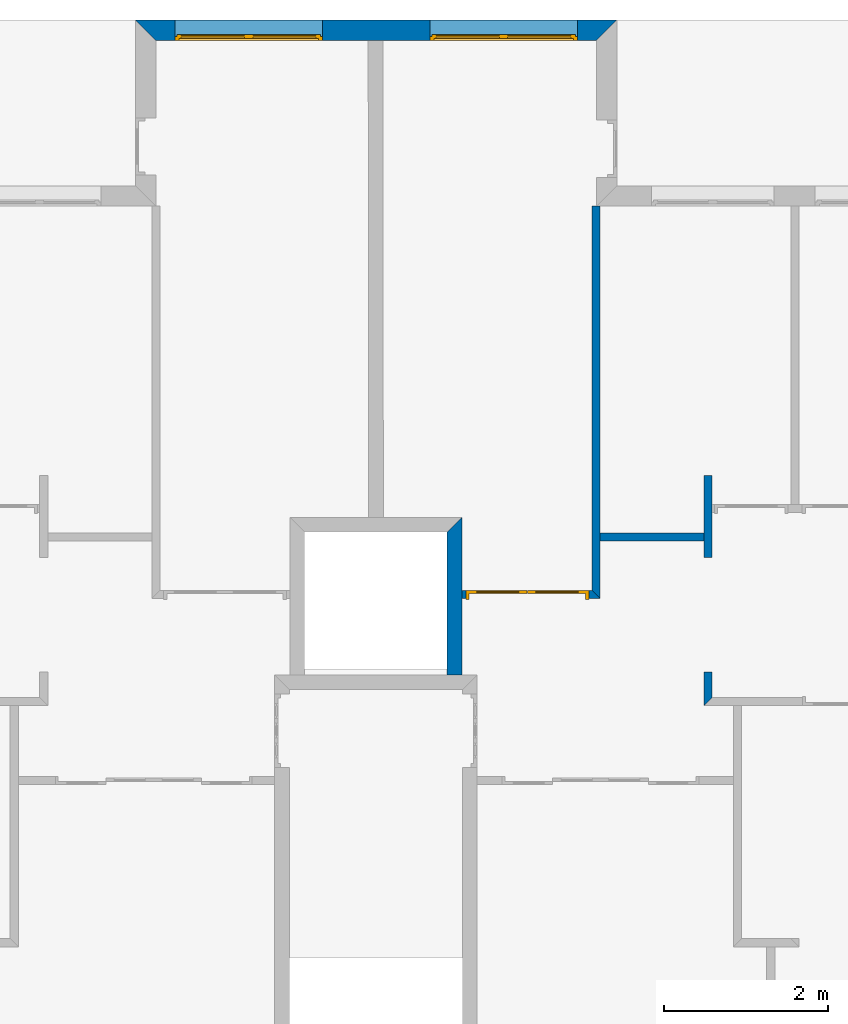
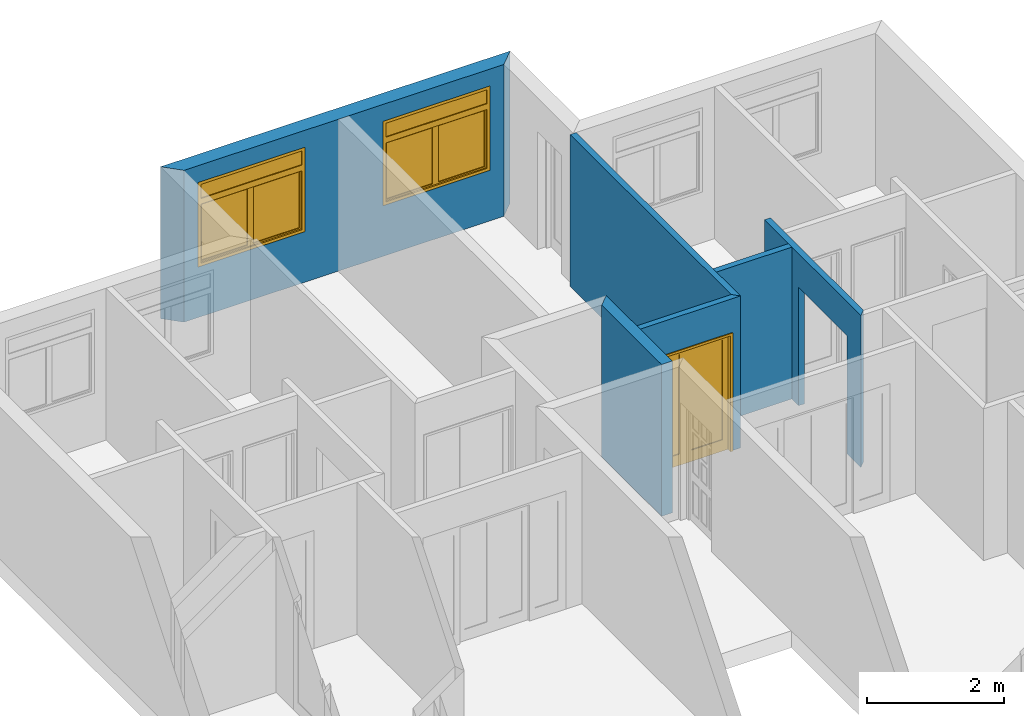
# One storey, part 11 of 13: 6 walls, 2 windows, 1 door, 4 openings.
"""IFC2X3 building model written with IfcOpenShell, lengths in metres."""

from ifc_helpers import new_model, entity, si_unit, converted_unit, direction, frame, frame_2d, origin_with_axes, place, context, project, spatial, polyline, rectangle, outline, extrude, faceted_brep, source, transform, mapped, material, layer, layer_set, layer_usage, type_object, element, fill, save


model = new_model("IFC2X3")

# Units and contexts
context_of_model = context(None, 3, precision=1e-05, world=origin_with_axes(), true_north=direction((6.123234e-17, 1.0)))
plan_context = context("Plan", 3, precision=1e-05, world=origin_with_axes(), true_north=direction((6.123234e-17, 1.0)))
model_context = context("Model", 3, precision=1e-05, world=origin_with_axes(), true_north=direction((6.123234e-17, 1.0)))
ifc_project = project(units=[si_unit("LENGTHUNIT", "METRE"), si_unit("AREAUNIT", "SQUARE_METRE"), si_unit("VOLUMEUNIT", "CUBIC_METRE"), converted_unit("PLANEANGLEUNIT", "DEGREE", entity("IfcPlaneAngleMeasure", 0.017453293), si_unit("PLANEANGLEUNIT", "RADIAN"), dimensions=[0, 0, 0, 0, 0, 0, 0]), si_unit("SOLIDANGLEUNIT", "STERADIAN"), si_unit("MASSUNIT", "GRAM"), si_unit("TIMEUNIT", "SECOND"), si_unit("THERMODYNAMICTEMPERATUREUNIT", "DEGREE_CELSIUS"), si_unit("LUMINOUSINTENSITYUNIT", "LUMEN")], contexts=[context_of_model, plan_context, model_context])

# Site, building, storey
site_placement = place(None, origin_with_axes())
site = spatial("IfcSite", under=ifc_project, at=site_placement, Name="Por defecto Sitio", CompositionType="ELEMENT")
building_placement = place(site_placement, origin_with_axes())
building = spatial("IfcBuilding", under=site, at=building_placement, Name="Por defecto Edificio", CompositionType="ELEMENT")
storey_placement = place(building_placement, frame((0.0, 0.0, 7.2), z_axis=(0.0, 0.0, 1.0), x_axis=(1.0, 0.0, 0.0)))
storey = spatial("IfcBuildingStorey", under=building, at=storey_placement, Name="Segunda", CompositionType="ELEMENT", Elevation=7.2)

# Wall, openings, windows
ifc_material = material(Name="Ladrillo común")
ifc_layer_1 = layer(ifc_material, 0.25, ventilated="UNKNOWN")
ifc_layer_set_1 = layer_set([ifc_layer_1], Name="Ladrillo común")
ifc_layer_usage_1 = layer_usage(ifc_layer_set_1, "AXIS2", "NEGATIVE", 0.0)
wall_type_1 = type_object("IfcWallType", Name="Ladrillo común", PredefinedType="NOTDEFINED")
wall_1_placement = place(storey_placement, frame((5.0781164, 15.472599, 0.0), z_axis=(0.0, 0.0, 1.0), x_axis=(1.0, 0.0, 0.0)))
wall_1 = element("IfcWallStandardCase", 1, at=wall_1_placement, inside=storey, type_object=wall_type_1, material=ifc_layer_usage_1, Name="Muro-014", context=context_of_model, shape_type="SweptSolid", body=[
    extrude(outline(polyline([(0.25, -0.25), (5.627937, -0.25), (5.877937, 0.0), (0.0, 0.0), (0.25, -0.25)])), origin_with_axes(), (0.0, 0.0, 1.0), 2.7),
])
opening_1_placement = place(wall_1_placement, frame((4.4950854, -0.25, 0.9), z_axis=(0.0, 0.0, 1.0), x_axis=(1.0, 0.0, 0.0)))
opening_1 = element("IfcOpeningElement", 2, at=opening_1_placement, cuts=wall_1, ObjectType="Opening", context=model_context, shape_type="SweptSolid", body=[
    extrude(rectangle(XDim=1.8, YDim=1.5, at=frame_2d((0.0, 0.75), x_axis=(-1.0, 0.0))), frame((0.0, 0.0, 0.0), z_axis=(0.0, 1.0, 0.0), x_axis=(-1.0, 0.0, 0.0)), (0.0, 0.0, 1.0), 0.25),
])
opening_2_placement = place(wall_1_placement, frame((1.3828517, -0.25, 0.9), z_axis=(0.0, 0.0, 1.0), x_axis=(1.0, 0.0, 0.0)))
opening_2 = element("IfcOpeningElement", 3, at=opening_2_placement, cuts=wall_1, ObjectType="Opening", context=model_context, shape_type="SweptSolid", body=[
    extrude(rectangle(XDim=1.8, YDim=1.5, at=frame_2d((4.4408921e-16, 0.75), x_axis=(1.0, 0.0))), frame((0.0, 0.0, 0.0), z_axis=(0.0, 1.0, 0.0), x_axis=(-1.0, 0.0, 0.0)), (0.0, 0.0, 1.0), 0.25),
])
window_style_1 = type_object("IfcWindowStyle", Name="V M Doble 12", ConstructionType="NOTDEFINED", OperationType="DOUBLE_PANEL_HORIZONTAL", ParameterTakesPrecedence=False, Sizeable=False)
shared_shape_1 = source(origin_with_axes(), model_context, "Body", "Brep", [
    faceted_brep([(0.025, 0.05, 0.05), (0.0, 0.05, 0.05), (0.0, 0.05, 1.45), (0.05, 0.05, 1.45), (0.05, 0.05, 1.2), (0.05, 0.05, 1.125), (0.025, 0.05, 1.125), (0.025, 0.025, 0.05), (0.05, 0.025, 0.05), (0.05, 0.0, 0.05), (0.0, 0.0, 0.05), (0.0, 0.0, 1.45), (0.05, 0.0, 1.45), (0.05, 0.0, 1.2), (0.05, 0.025, 1.125), (0.05, 0.0, 1.1), (0.05, 0.025, 1.1), (0.025, 0.025, 1.125)], [[[0, 1, 2, 3, 4, 5, 6]], [[7, 8, 9, 10, 1, 0]], [[2, 1, 10, 11]], [[3, 2, 11, 12]], [[4, 3, 12, 13]], [[14, 5, 4, 13, 15, 16]], [[14, 17, 6, 5]], [[6, 17, 7, 0]], [[16, 8, 7, 17, 14]], [[16, 15, 9, 8]], [[13, 12, 11, 10, 9, 15]]]),
    faceted_brep([(1.775, 0.05, 1.125), (1.75, 0.05, 1.125), (1.75, 0.05, 1.2), (1.75, 0.05, 1.45), (1.8, 0.05, 1.45), (1.8, 0.05, 0.05), (1.775, 0.05, 0.05), (1.775, 0.025, 1.125), (1.75, 0.025, 1.125), (1.75, 0.025, 1.1), (1.75, 0.0, 1.1), (1.75, 0.0, 1.2), (1.75, 0.0, 1.45), (1.8, 0.0, 1.45), (1.8, 0.0, 0.05), (1.775, 0.025, 0.05), (1.75, 0.0, 0.05), (1.75, 0.025, 0.05)], [[[0, 1, 2, 3, 4, 5, 6]], [[0, 7, 8, 1]], [[8, 9, 10, 11, 2, 1]], [[3, 2, 11, 12]], [[4, 3, 12, 13]], [[5, 4, 13, 14]], [[15, 6, 5, 14, 16, 17]], [[6, 15, 7, 0]], [[17, 9, 8, 7, 15]], [[17, 16, 10, 9]], [[14, 13, 12, 11, 10, 16]]]),
    faceted_brep([(0.05, 0.05, 1.125), (0.05, 0.05, 1.2), (1.75, 0.05, 1.2), (1.75, 0.05, 1.125), (0.9, 0.05, 1.125), (0.05, 0.025, 1.125), (0.05, 0.025, 1.1), (0.05, 0.0, 1.1), (0.05, 0.0, 1.2), (1.75, 0.0, 1.2), (1.75, 0.025, 1.125), (1.75, 0.0, 1.1), (1.75, 0.025, 1.1), (0.9, 0.025, 1.125)], [[[0, 1, 2, 3, 4]], [[5, 6, 7, 8, 1, 0]], [[2, 1, 8, 9]], [[10, 3, 2, 9, 11, 12]], [[10, 13, 4, 3]], [[4, 13, 5, 0]], [[12, 6, 5, 13, 10]], [[12, 11, 7, 6]], [[9, 8, 7, 11]]]),
    faceted_brep([(1.75, 0.025, 0.05), (1.75, 0.0, 0.05), (1.8, 0.0, 0.05), (1.8, 0.05, 0.05), (1.775, 0.05, 0.05), (1.775, 0.025, 0.05), (0.05, 0.025, 0.05), (0.05, 0.0, 0.05), (0.0, 0.0, 0.05), (0.0, 0.0, 0.0), (1.8, 0.0, 0.0), (1.8, 0.05, 0.0), (0.025, 0.05, 0.025), (0.9, 0.05, 0.025), (1.775, 0.05, 0.025), (0.0, 0.05, 0.0), (0.0, 0.05, 0.05), (0.025, 0.05, 0.05), (1.775, 0.025, 0.025), (0.9, 0.025, 0.025), (0.025, 0.025, 0.025), (0.025, 0.025, 0.05)], [[[0, 1, 2, 3, 4, 5]], [[6, 7, 1, 0]], [[8, 9, 10, 2, 1, 7]], [[11, 3, 2, 10]], [[12, 13, 14, 4, 3, 11, 15, 16, 17]], [[14, 18, 5, 4]], [[5, 18, 19, 20, 21, 6, 0]], [[21, 17, 16, 8, 7, 6]], [[16, 15, 9, 8]], [[15, 11, 10, 9]], [[12, 20, 19, 13]], [[13, 19, 18, 14]], [[21, 20, 12, 17]]]),
    faceted_brep([(1.75, 0.0, 1.45), (1.75, 0.05, 1.45), (1.8, 0.05, 1.45), (1.8, 0.0, 1.45), (0.05, 0.0, 1.45), (0.05, 0.05, 1.45), (0.0, 0.05, 1.45), (0.0, 0.05, 1.5), (1.8, 0.05, 1.5), (1.8, 0.0, 1.5), (0.0, 0.0, 1.5), (0.0, 0.0, 1.45)], [[[0, 1, 2, 3]], [[4, 5, 1, 0]], [[1, 5, 6, 7, 8, 2]], [[3, 2, 8, 9]], [[0, 3, 9, 10, 11, 4]], [[11, 6, 5, 4]], [[10, 7, 6, 11]], [[9, 8, 7, 10]]]),
    faceted_brep([(1.725, 0.025, 0.075), (1.725, 0.025, 1.075), (1.725, 0.075, 1.075), (1.725, 0.075, 0.075), (1.775, 0.025, 0.075), (1.775, 0.025, 1.075), (1.775, 0.075, 1.075), (1.775, 0.075, 0.075)], [[[0, 1, 2, 3]], [[0, 4, 5, 1]], [[1, 5, 6, 2]], [[3, 2, 6, 7]], [[4, 0, 3, 7]], [[5, 4, 7, 6]]]),
    faceted_brep([(0.9, 0.025, 0.075), (0.9, 0.025, 1.075), (0.9, 0.075, 1.075), (0.9, 0.075, 0.075), (0.95, 0.025, 0.075), (0.95, 0.025, 1.075), (0.95, 0.075, 1.075), (0.95, 0.075, 0.075)], [[[0, 1, 2, 3]], [[0, 4, 5, 1]], [[1, 5, 6, 2]], [[3, 2, 6, 7]], [[4, 0, 3, 7]], [[5, 4, 7, 6]]]),
    faceted_brep([(0.9, 0.025, 0.025), (0.9, 0.025, 0.075), (0.9, 0.075, 0.075), (0.9, 0.075, 0.025), (1.775, 0.025, 0.025), (1.775, 0.025, 0.075), (1.725, 0.025, 0.075), (0.95, 0.025, 0.075), (0.95, 0.075, 0.075), (1.725, 0.075, 0.075), (1.775, 0.075, 0.075), (1.775, 0.075, 0.025)], [[[0, 1, 2, 3]], [[0, 4, 5, 6, 7, 1]], [[1, 7, 8, 2]], [[3, 2, 8, 9, 10, 11]], [[4, 0, 3, 11]], [[5, 4, 11, 10]], [[6, 5, 10, 9]], [[7, 6, 9, 8]]]),
    faceted_brep([(1.775, 0.025, 1.125), (1.775, 0.025, 1.075), (1.775, 0.075, 1.075), (1.775, 0.075, 1.125), (0.9, 0.025, 1.125), (0.9, 0.025, 1.075), (0.95, 0.025, 1.075), (1.725, 0.025, 1.075), (1.725, 0.075, 1.075), (0.95, 0.075, 1.075), (0.9, 0.075, 1.075), (0.9, 0.075, 1.125)], [[[0, 1, 2, 3]], [[0, 4, 5, 6, 7, 1]], [[1, 7, 8, 2]], [[3, 2, 8, 9, 10, 11]], [[4, 0, 3, 11]], [[5, 4, 11, 10]], [[6, 5, 10, 9]], [[7, 6, 9, 8]]]),
    faceted_brep([(1.725, 0.04, 0.075), (0.95, 0.04, 0.075), (0.95, 0.06, 0.075), (1.725, 0.06, 0.075), (1.725, 0.04, 1.075), (0.95, 0.04, 1.075), (0.95, 0.06, 1.075), (1.725, 0.06, 1.075)], [[[0, 1, 2, 3]], [[0, 4, 5, 1]], [[1, 5, 6, 2]], [[3, 2, 6, 7]], [[4, 0, 3, 7]], [[5, 4, 7, 6]]]),
    faceted_brep([(0.85, 0.025, 0.075), (0.85, 0.025, 1.075), (0.85, 0.075, 1.075), (0.85, 0.075, 0.075), (0.9, 0.025, 0.075), (0.9, 0.025, 1.075), (0.9, 0.075, 1.075), (0.9, 0.075, 0.075)], [[[0, 1, 2, 3]], [[0, 4, 5, 1]], [[1, 5, 6, 2]], [[3, 2, 6, 7]], [[4, 0, 3, 7]], [[5, 4, 7, 6]]]),
    faceted_brep([(0.025, 0.025, 0.075), (0.025, 0.025, 1.075), (0.025, 0.075, 1.075), (0.025, 0.075, 0.075), (0.075, 0.025, 0.075), (0.075, 0.025, 1.075), (0.075, 0.075, 1.075), (0.075, 0.075, 0.075)], [[[0, 1, 2, 3]], [[0, 4, 5, 1]], [[1, 5, 6, 2]], [[3, 2, 6, 7]], [[4, 0, 3, 7]], [[5, 4, 7, 6]]]),
    faceted_brep([(0.025, 0.025, 0.025), (0.025, 0.025, 0.075), (0.025, 0.075, 0.075), (0.025, 0.075, 0.025), (0.9, 0.025, 0.025), (0.9, 0.025, 0.075), (0.85, 0.025, 0.075), (0.075, 0.025, 0.075), (0.075, 0.075, 0.075), (0.85, 0.075, 0.075), (0.9, 0.075, 0.075), (0.9, 0.075, 0.025)], [[[0, 1, 2, 3]], [[0, 4, 5, 6, 7, 1]], [[1, 7, 8, 2]], [[3, 2, 8, 9, 10, 11]], [[4, 0, 3, 11]], [[5, 4, 11, 10]], [[6, 5, 10, 9]], [[7, 6, 9, 8]]]),
    faceted_brep([(0.9, 0.025, 1.125), (0.9, 0.025, 1.075), (0.9, 0.075, 1.075), (0.9, 0.075, 1.125), (0.025, 0.025, 1.125), (0.025, 0.025, 1.075), (0.075, 0.025, 1.075), (0.85, 0.025, 1.075), (0.85, 0.075, 1.075), (0.075, 0.075, 1.075), (0.025, 0.075, 1.075), (0.025, 0.075, 1.125)], [[[0, 1, 2, 3]], [[0, 4, 5, 6, 7, 1]], [[1, 7, 8, 2]], [[3, 2, 8, 9, 10, 11]], [[4, 0, 3, 11]], [[5, 4, 11, 10]], [[6, 5, 10, 9]], [[7, 6, 9, 8]]]),
    faceted_brep([(0.85, 0.04, 0.075), (0.075, 0.04, 0.075), (0.075, 0.06, 0.075), (0.85, 0.06, 0.075), (0.85, 0.04, 1.075), (0.075, 0.04, 1.075), (0.075, 0.06, 1.075), (0.85, 0.06, 1.075)], [[[0, 1, 2, 3]], [[0, 4, 5, 1]], [[1, 5, 6, 2]], [[3, 2, 6, 7]], [[4, 0, 3, 7]], [[5, 4, 7, 6]]]),
    faceted_brep([(1.75, 0.015, 1.2), (0.05, 0.015, 1.2), (0.05, 0.035, 1.2), (1.75, 0.035, 1.2), (1.75, 0.015, 1.45), (0.05, 0.015, 1.45), (0.05, 0.035, 1.45), (1.75, 0.035, 1.45)], [[[0, 1, 2, 3]], [[0, 4, 5, 1]], [[1, 5, 6, 2]], [[3, 2, 6, 7]], [[4, 0, 3, 7]], [[5, 4, 7, 6]]]),
])
window_1_placement = place(opening_2_placement, frame((-0.9, 0.0, 0.0), z_axis=(0.0, 0.0, 1.0), x_axis=(1.0, 0.0, 0.0)))
window_1 = element("IfcWindow", 4, at=window_1_placement, inside=storey, type_object=window_style_1, Name="V06", OverallHeight=1.5, OverallWidth=1.8, context=model_context, shape_type="MappedRepresentation", body=[
    mapped(shared_shape_1, transform((0.0, 0.0, 0.0), scale=1.0)),
])
fill(opening_2, window_1)
window_style_2 = type_object("IfcWindowStyle", Name="V M Doble 12", ConstructionType="NOTDEFINED", OperationType="DOUBLE_PANEL_HORIZONTAL", ParameterTakesPrecedence=False, Sizeable=False)
shared_shape_2 = source(origin_with_axes(), model_context, "Body", "Brep", [
    faceted_brep([(1.775, 0.05, 0.05), (1.775, 0.05, 1.125), (1.75, 0.05, 1.125), (1.75, 0.05, 1.2), (1.75, 0.05, 1.45), (1.8, 0.05, 1.45), (1.8, 0.05, 0.05), (1.775, 0.025, 0.05), (1.775, 0.025, 1.125), (1.75, 0.025, 1.125), (1.75, 0.025, 1.1), (1.75, 0.0, 1.1), (1.75, 0.0, 1.2), (1.75, 0.0, 1.45), (1.8, 0.0, 1.45), (1.8, 0.0, 0.05), (1.75, 0.0, 0.05), (1.75, 0.025, 0.05)], [[[0, 1, 2, 3, 4, 5, 6]], [[1, 0, 7, 8]], [[9, 2, 1, 8]], [[9, 10, 11, 12, 3, 2]], [[3, 12, 13, 4]], [[4, 13, 14, 5]], [[5, 14, 15, 6]], [[7, 0, 6, 15, 16, 17]], [[10, 9, 8, 7, 17]], [[10, 17, 16, 11]], [[12, 11, 16, 15, 14, 13]]]),
    faceted_brep([(0.025, 0.05, 1.125), (0.025, 0.05, 0.05), (0.0, 0.05, 0.05), (0.0, 0.05, 1.45), (0.05, 0.05, 1.45), (0.05, 0.05, 1.2), (0.05, 0.05, 1.125), (0.025, 0.025, 1.125), (0.025, 0.025, 0.05), (0.05, 0.025, 0.05), (0.05, 0.0, 0.05), (0.0, 0.0, 0.05), (0.0, 0.0, 1.45), (0.05, 0.0, 1.45), (0.05, 0.0, 1.2), (0.05, 0.025, 1.125), (0.05, 0.0, 1.1), (0.05, 0.025, 1.1)], [[[0, 1, 2, 3, 4, 5, 6]], [[1, 0, 7, 8]], [[8, 9, 10, 11, 2, 1]], [[2, 11, 12, 3]], [[3, 12, 13, 4]], [[4, 13, 14, 5]], [[15, 6, 5, 14, 16, 17]], [[0, 6, 15, 7]], [[9, 8, 7, 15, 17]], [[9, 17, 16, 10]], [[11, 10, 16, 14, 13, 12]]]),
    faceted_brep([(1.75, 0.05, 1.125), (0.9, 0.05, 1.125), (0.05, 0.05, 1.125), (0.05, 0.05, 1.2), (1.75, 0.05, 1.2), (1.75, 0.025, 1.125), (0.9, 0.025, 1.125), (0.05, 0.025, 1.125), (0.05, 0.025, 1.1), (0.05, 0.0, 1.1), (0.05, 0.0, 1.2), (1.75, 0.0, 1.2), (1.75, 0.0, 1.1), (1.75, 0.025, 1.1)], [[[0, 1, 2, 3, 4]], [[1, 0, 5, 6]], [[7, 2, 1, 6]], [[7, 8, 9, 10, 3, 2]], [[3, 10, 11, 4]], [[5, 0, 4, 11, 12, 13]], [[8, 7, 6, 5, 13]], [[8, 13, 12, 9]], [[10, 9, 12, 11]]]),
    faceted_brep([(0.05, 0.025, 0.05), (0.025, 0.025, 0.05), (0.025, 0.05, 0.05), (0.0, 0.05, 0.05), (0.0, 0.0, 0.05), (0.05, 0.0, 0.05), (1.75, 0.025, 0.05), (1.775, 0.025, 0.05), (1.775, 0.025, 0.025), (0.9, 0.025, 0.025), (0.025, 0.025, 0.025), (0.025, 0.05, 0.025), (1.775, 0.05, 0.025), (1.775, 0.05, 0.05), (1.8, 0.05, 0.05), (1.8, 0.05, 0.0), (0.0, 0.05, 0.0), (0.9, 0.05, 0.025), (0.0, 0.0, 0.0), (1.8, 0.0, 0.05), (1.75, 0.0, 0.05), (1.8, 0.0, 0.0)], [[[0, 1, 2, 3, 4, 5]], [[1, 0, 6, 7, 8, 9, 10]], [[11, 2, 1, 10]], [[12, 13, 14, 15, 16, 3, 2, 11, 17]], [[16, 18, 4, 3]], [[19, 20, 5, 4, 18, 21]], [[6, 0, 5, 20]], [[7, 6, 20, 19, 14, 13]], [[7, 13, 12, 8]], [[12, 17, 9, 8]], [[17, 11, 10, 9]], [[14, 19, 21, 15]], [[15, 21, 18, 16]]]),
    faceted_brep([(0.05, 0.0, 1.45), (0.0, 0.0, 1.45), (0.0, 0.05, 1.45), (0.05, 0.05, 1.45), (1.75, 0.0, 1.45), (1.8, 0.0, 1.45), (1.8, 0.0, 1.5), (0.0, 0.0, 1.5), (0.0, 0.05, 1.5), (1.8, 0.05, 1.5), (1.8, 0.05, 1.45), (1.75, 0.05, 1.45)], [[[0, 1, 2, 3]], [[0, 4, 5, 6, 7, 1]], [[1, 7, 8, 2]], [[3, 2, 8, 9, 10, 11]], [[4, 0, 3, 11]], [[5, 4, 11, 10]], [[6, 5, 10, 9]], [[7, 6, 9, 8]]]),
    faceted_brep([(0.075, 0.025, 0.075), (0.075, 0.075, 0.075), (0.075, 0.075, 1.075), (0.075, 0.025, 1.075), (0.025, 0.025, 0.075), (0.025, 0.075, 0.075), (0.025, 0.075, 1.075), (0.025, 0.025, 1.075)], [[[0, 1, 2, 3]], [[4, 5, 1, 0]], [[1, 5, 6, 2]], [[3, 2, 6, 7]], [[0, 3, 7, 4]], [[7, 6, 5, 4]]]),
    faceted_brep([(0.9, 0.025, 0.075), (0.9, 0.075, 0.075), (0.9, 0.075, 1.075), (0.9, 0.025, 1.075), (0.85, 0.025, 0.075), (0.85, 0.075, 0.075), (0.85, 0.075, 1.075), (0.85, 0.025, 1.075)], [[[0, 1, 2, 3]], [[4, 5, 1, 0]], [[1, 5, 6, 2]], [[3, 2, 6, 7]], [[0, 3, 7, 4]], [[7, 6, 5, 4]]]),
    faceted_brep([(0.9, 0.025, 0.025), (0.9, 0.075, 0.025), (0.9, 0.075, 0.075), (0.9, 0.025, 0.075), (0.025, 0.025, 0.025), (0.025, 0.075, 0.025), (0.025, 0.075, 0.075), (0.075, 0.075, 0.075), (0.85, 0.075, 0.075), (0.85, 0.025, 0.075), (0.075, 0.025, 0.075), (0.025, 0.025, 0.075)], [[[0, 1, 2, 3]], [[4, 5, 1, 0]], [[1, 5, 6, 7, 8, 2]], [[3, 2, 8, 9]], [[0, 3, 9, 10, 11, 4]], [[11, 6, 5, 4]], [[10, 7, 6, 11]], [[9, 8, 7, 10]]]),
    faceted_brep([(0.025, 0.025, 1.125), (0.025, 0.075, 1.125), (0.025, 0.075, 1.075), (0.025, 0.025, 1.075), (0.9, 0.025, 1.125), (0.9, 0.075, 1.125), (0.9, 0.075, 1.075), (0.85, 0.075, 1.075), (0.075, 0.075, 1.075), (0.075, 0.025, 1.075), (0.85, 0.025, 1.075), (0.9, 0.025, 1.075)], [[[0, 1, 2, 3]], [[4, 5, 1, 0]], [[1, 5, 6, 7, 8, 2]], [[3, 2, 8, 9]], [[0, 3, 9, 10, 11, 4]], [[11, 6, 5, 4]], [[10, 7, 6, 11]], [[9, 8, 7, 10]]]),
    faceted_brep([(0.075, 0.04, 0.075), (0.075, 0.06, 0.075), (0.85, 0.06, 0.075), (0.85, 0.04, 0.075), (0.075, 0.04, 1.075), (0.075, 0.06, 1.075), (0.85, 0.06, 1.075), (0.85, 0.04, 1.075)], [[[0, 1, 2, 3]], [[4, 5, 1, 0]], [[1, 5, 6, 2]], [[3, 2, 6, 7]], [[0, 3, 7, 4]], [[7, 6, 5, 4]]]),
    faceted_brep([(0.95, 0.025, 0.075), (0.95, 0.075, 0.075), (0.95, 0.075, 1.075), (0.95, 0.025, 1.075), (0.9, 0.025, 0.075), (0.9, 0.075, 0.075), (0.9, 0.075, 1.075), (0.9, 0.025, 1.075)], [[[0, 1, 2, 3]], [[4, 5, 1, 0]], [[1, 5, 6, 2]], [[3, 2, 6, 7]], [[0, 3, 7, 4]], [[7, 6, 5, 4]]]),
    faceted_brep([(1.775, 0.025, 0.075), (1.775, 0.075, 0.075), (1.775, 0.075, 1.075), (1.775, 0.025, 1.075), (1.725, 0.025, 0.075), (1.725, 0.075, 0.075), (1.725, 0.075, 1.075), (1.725, 0.025, 1.075)], [[[0, 1, 2, 3]], [[4, 5, 1, 0]], [[1, 5, 6, 2]], [[3, 2, 6, 7]], [[0, 3, 7, 4]], [[7, 6, 5, 4]]]),
    faceted_brep([(1.775, 0.025, 0.025), (1.775, 0.075, 0.025), (1.775, 0.075, 0.075), (1.775, 0.025, 0.075), (0.9, 0.025, 0.025), (0.9, 0.075, 0.025), (0.9, 0.075, 0.075), (0.95, 0.075, 0.075), (1.725, 0.075, 0.075), (1.725, 0.025, 0.075), (0.95, 0.025, 0.075), (0.9, 0.025, 0.075)], [[[0, 1, 2, 3]], [[4, 5, 1, 0]], [[1, 5, 6, 7, 8, 2]], [[3, 2, 8, 9]], [[0, 3, 9, 10, 11, 4]], [[11, 6, 5, 4]], [[10, 7, 6, 11]], [[9, 8, 7, 10]]]),
    faceted_brep([(0.9, 0.025, 1.125), (0.9, 0.075, 1.125), (0.9, 0.075, 1.075), (0.9, 0.025, 1.075), (1.775, 0.025, 1.125), (1.775, 0.075, 1.125), (1.775, 0.075, 1.075), (1.725, 0.075, 1.075), (0.95, 0.075, 1.075), (0.95, 0.025, 1.075), (1.725, 0.025, 1.075), (1.775, 0.025, 1.075)], [[[0, 1, 2, 3]], [[4, 5, 1, 0]], [[1, 5, 6, 7, 8, 2]], [[3, 2, 8, 9]], [[0, 3, 9, 10, 11, 4]], [[11, 6, 5, 4]], [[10, 7, 6, 11]], [[9, 8, 7, 10]]]),
    faceted_brep([(0.95, 0.04, 0.075), (0.95, 0.06, 0.075), (1.725, 0.06, 0.075), (1.725, 0.04, 0.075), (0.95, 0.04, 1.075), (0.95, 0.06, 1.075), (1.725, 0.06, 1.075), (1.725, 0.04, 1.075)], [[[0, 1, 2, 3]], [[4, 5, 1, 0]], [[1, 5, 6, 2]], [[3, 2, 6, 7]], [[0, 3, 7, 4]], [[7, 6, 5, 4]]]),
    faceted_brep([(0.05, 0.015, 1.2), (0.05, 0.035, 1.2), (1.75, 0.035, 1.2), (1.75, 0.015, 1.2), (0.05, 0.015, 1.45), (0.05, 0.035, 1.45), (1.75, 0.035, 1.45), (1.75, 0.015, 1.45)], [[[0, 1, 2, 3]], [[4, 5, 1, 0]], [[1, 5, 6, 2]], [[3, 2, 6, 7]], [[0, 3, 7, 4]], [[7, 6, 5, 4]]]),
])
window_2_placement = place(opening_1_placement, frame((-0.9, 0.0, 0.0), z_axis=(0.0, 0.0, 1.0), x_axis=(1.0, 0.0, 0.0)))
window_2 = element("IfcWindow", 5, at=window_2_placement, inside=storey, type_object=window_style_2, Name="V05", OverallHeight=1.5, OverallWidth=1.8, context=model_context, shape_type="MappedRepresentation", body=[
    mapped(shared_shape_2, transform((0.0, 0.0, 0.0), scale=1.0)),
])
fill(opening_1, window_2)

# Wall
ifc_layer_2 = layer(ifc_material, 0.18, ventilated="UNKNOWN")
ifc_layer_set_2 = layer_set([ifc_layer_2], Name="Ladrillo común")
ifc_layer_usage_2 = layer_usage(ifc_layer_set_2, "AXIS2", "NEGATIVE", 0.0)
wall_type_2 = type_object("IfcWallType", Name="Ladrillo común", PredefinedType="NOTDEFINED")
wall_2_placement = place(storey_placement, frame((9.065, 9.4007615, 0.0), z_axis=(0.0, 0.0, 1.0), x_axis=(0.0, -1.0, 0.0)))
element("IfcWallStandardCase", 6, at=wall_2_placement, inside=storey, type_object=wall_type_2, material=ifc_layer_usage_2, Name="Muro-012", context=context_of_model, shape_type="SweptSolid", body=[
    extrude(outline(polyline([(0.18, -0.18), (1.9231052, -0.18), (1.9231052, 0.0), (0.0, 0.0), (0.18, -0.18)])), origin_with_axes(), (0.0, 0.0, 1.0), 2.7),
])

# Wall, opening, door
ifc_layer_3 = layer(ifc_material, 0.1, ventilated="UNKNOWN")
ifc_layer_set_3 = layer_set([ifc_layer_3], Name="Ladrillo común")
ifc_layer_usage_3 = layer_usage(ifc_layer_set_3, "AXIS2", "NEGATIVE", 0.0)
wall_type_3 = type_object("IfcWallType", Name="Ladrillo común", PredefinedType="NOTDEFINED")
wall_3_placement = place(storey_placement, frame((9.065, 8.5109196, 0.0), z_axis=(0.0, 0.0, 1.0), x_axis=(1.0, 0.0, 0.0)))
wall_3 = element("IfcWallStandardCase", 7, at=wall_3_placement, inside=storey, type_object=wall_type_3, material=ifc_layer_usage_3, Name="Muro-028", context=context_of_model, shape_type="SweptSolid", body=[
    extrude(outline(polyline([(-1.7763568e-14, -0.1), (1.6868836, -0.1), (1.5868836, 0.0), (-1.7763568e-14, 0.0), (-1.7763568e-14, -0.1)])), origin_with_axes(), (0.0, 0.0, 1.0), 2.7),
])
opening_3_placement = place(wall_3_placement, frame((0.79761165, -0.1, 0.0), z_axis=(0.0, 0.0, 1.0), x_axis=(1.0, 0.0, 0.0)))
opening_3 = element("IfcOpeningElement", 8, at=opening_3_placement, cuts=wall_3, ObjectType="Opening", context=model_context, shape_type="SweptSolid", body=[
    extrude(rectangle(XDim=1.5, YDim=2.1, at=frame_2d((0.0, 1.05), x_axis=(-1.0, 0.0))), frame((0.0, 0.0, 0.0), z_axis=(0.0, 1.0, 0.0), x_axis=(-1.0, 0.0, 0.0)), (0.0, 0.0, 1.0), 0.1),
])
door_style = type_object("IfcDoorStyle", Name="P2 12", ConstructionType="NOTDEFINED", OperationType="DOUBLE_DOOR_SINGLE_SWING", ParameterTakesPrecedence=False, Sizeable=False)
shared_shape_3 = source(origin_with_axes(), model_context, "Body", "Brep", [
    faceted_brep([(0.04, 0.075, 0.0), (0.04, 0.075, 2.06), (0.04, 0.0, 2.06), (0.04, 0.0, 0.0), (0.028, 0.075, 2.06), (0.028, 0.075, 0.0), (0.028, 0.115, 2.06), (0.0, 0.115, 2.06), (0.0, 0.0, 2.06), (0.0, 0.0, 0.0), (0.0, 0.115, 0.0), (0.028, 0.115, 0.0)], [[[0, 1, 2, 3]], [[4, 1, 0, 5]], [[4, 6, 7, 8, 2, 1]], [[9, 3, 2, 8]], [[5, 0, 3, 9, 10, 11]], [[6, 4, 5, 11]], [[6, 11, 10, 7]], [[8, 7, 10, 9]]]),
    faceted_brep([(1.472, 0.075, 2.06), (1.46, 0.075, 2.06), (1.46, 0.0, 2.06), (1.5, 0.0, 2.06), (1.5, 0.115, 2.06), (1.472, 0.115, 2.06), (1.472, 0.075, 0.0), (1.46, 0.075, 0.0), (1.46, 0.0, 0.0), (1.5, 0.0, 0.0), (1.5, 0.115, 0.0), (1.472, 0.115, 0.0)], [[[0, 1, 2, 3, 4, 5]], [[1, 0, 6, 7]], [[1, 7, 8, 2]], [[8, 9, 3, 2]], [[9, 10, 4, 3]], [[11, 5, 4, 10]], [[0, 5, 11, 6]], [[6, 11, 10, 9, 8, 7]]]),
    faceted_brep([(0.028, 0.115, 2.072), (0.028, 0.115, 2.06), (0.0, 0.115, 2.06), (0.0, 0.115, 2.1), (1.5, 0.115, 2.1), (1.5, 0.115, 2.06), (1.472, 0.115, 2.06), (1.472, 0.115, 2.072), (0.028, 0.075, 2.072), (0.028, 0.075, 2.06), (0.04, 0.075, 2.06), (0.04, 0.0, 2.06), (0.0, 0.0, 2.06), (0.0, 0.0, 2.1), (1.5, 0.0, 2.1), (1.5, 0.0, 2.06), (1.472, 0.075, 2.06), (1.46, 0.0, 2.06), (1.46, 0.075, 2.06), (1.472, 0.075, 2.072)], [[[0, 1, 2, 3, 4, 5, 6, 7]], [[1, 0, 8, 9]], [[9, 10, 11, 12, 2, 1]], [[13, 3, 2, 12]], [[14, 4, 3, 13]], [[15, 5, 4, 14]], [[16, 6, 5, 15, 17, 18]], [[7, 6, 16, 19]], [[0, 7, 19, 8]], [[16, 18, 10, 9, 8, 19]], [[10, 18, 17, 11]], [[14, 13, 12, 11, 17, 15]]]),
    faceted_brep([(1.472, 0.115, 0.2), (1.472, 0.075, 0.2), (1.372, 0.075, 0.2), (1.372, 0.115, 0.2), (1.472, 0.115, 1.972), (1.472, 0.075, 1.972), (1.372, 0.075, 1.972), (1.372, 0.115, 1.972)], [[[0, 1, 2, 3]], [[4, 5, 1, 0]], [[1, 5, 6, 2]], [[3, 2, 6, 7]], [[0, 3, 7, 4]], [[7, 6, 5, 4]]]),
    faceted_brep([(0.751, 0.115, 0.2), (0.751, 0.075, 0.2), (0.751, 0.075, 1.972), (0.751, 0.115, 1.972), (0.851, 0.115, 0.2), (0.851, 0.075, 0.2), (0.851, 0.075, 1.972), (0.851, 0.115, 1.972)], [[[0, 1, 2, 3]], [[4, 5, 1, 0]], [[1, 5, 6, 2]], [[3, 2, 6, 7]], [[0, 3, 7, 4]], [[7, 6, 5, 4]]]),
    faceted_brep([(1.472, 0.115, 0.0), (1.472, 0.075, 0.0), (0.751, 0.075, 0.0), (0.751, 0.115, 0.0), (1.472, 0.115, 0.2), (1.472, 0.075, 0.2), (1.372, 0.075, 0.2), (0.851, 0.075, 0.2), (0.751, 0.075, 0.2), (0.751, 0.115, 0.2), (0.851, 0.115, 0.2), (1.372, 0.115, 0.2)], [[[0, 1, 2, 3]], [[4, 5, 1, 0]], [[1, 5, 6, 7, 8, 2]], [[3, 2, 8, 9]], [[0, 3, 9, 10, 11, 4]], [[11, 6, 5, 4]], [[10, 7, 6, 11]], [[9, 8, 7, 10]]]),
    faceted_brep([(1.472, 0.115, 2.072), (1.472, 0.075, 2.072), (1.472, 0.075, 1.972), (1.472, 0.115, 1.972), (0.751, 0.115, 2.072), (0.751, 0.075, 2.072), (0.751, 0.075, 1.972), (0.851, 0.075, 1.972), (1.372, 0.075, 1.972), (1.372, 0.115, 1.972), (0.851, 0.115, 1.972), (0.751, 0.115, 1.972)], [[[0, 1, 2, 3]], [[4, 5, 1, 0]], [[1, 5, 6, 7, 8, 2]], [[3, 2, 8, 9]], [[0, 3, 9, 10, 11, 4]], [[11, 6, 5, 4]], [[10, 7, 6, 11]], [[9, 8, 7, 10]]]),
    faceted_brep([(1.372, 0.101, 0.2), (1.372, 0.089, 0.2), (0.851, 0.089, 0.2), (0.851, 0.101, 0.2), (1.372, 0.101, 1.972), (1.372, 0.089, 1.972), (0.851, 0.089, 1.972), (0.851, 0.101, 1.972)], [[[0, 1, 2, 3]], [[4, 5, 1, 0]], [[1, 5, 6, 2]], [[3, 2, 6, 7]], [[0, 3, 7, 4]], [[7, 6, 5, 4]]]),
    faceted_brep([(0.028, 0.115, 0.2), (0.128, 0.115, 0.2), (0.128, 0.075, 0.2), (0.028, 0.075, 0.2), (0.028, 0.115, 1.972), (0.128, 0.115, 1.972), (0.128, 0.075, 1.972), (0.028, 0.075, 1.972)], [[[0, 1, 2, 3]], [[0, 4, 5, 1]], [[1, 5, 6, 2]], [[3, 2, 6, 7]], [[4, 0, 3, 7]], [[5, 4, 7, 6]]]),
    faceted_brep([(0.749, 0.115, 0.2), (0.749, 0.115, 1.972), (0.749, 0.075, 1.972), (0.749, 0.075, 0.2), (0.649, 0.115, 0.2), (0.649, 0.115, 1.972), (0.649, 0.075, 1.972), (0.649, 0.075, 0.2)], [[[0, 1, 2, 3]], [[0, 4, 5, 1]], [[1, 5, 6, 2]], [[3, 2, 6, 7]], [[4, 0, 3, 7]], [[5, 4, 7, 6]]]),
    faceted_brep([(0.028, 0.115, 0.0), (0.749, 0.115, 0.0), (0.749, 0.075, 0.0), (0.028, 0.075, 0.0), (0.028, 0.115, 0.2), (0.128, 0.115, 0.2), (0.649, 0.115, 0.2), (0.749, 0.115, 0.2), (0.749, 0.075, 0.2), (0.649, 0.075, 0.2), (0.128, 0.075, 0.2), (0.028, 0.075, 0.2)], [[[0, 1, 2, 3]], [[0, 4, 5, 6, 7, 1]], [[1, 7, 8, 2]], [[3, 2, 8, 9, 10, 11]], [[4, 0, 3, 11]], [[5, 4, 11, 10]], [[6, 5, 10, 9]], [[7, 6, 9, 8]]]),
    faceted_brep([(0.028, 0.115, 2.072), (0.028, 0.115, 1.972), (0.028, 0.075, 1.972), (0.028, 0.075, 2.072), (0.749, 0.115, 2.072), (0.749, 0.115, 1.972), (0.649, 0.115, 1.972), (0.128, 0.115, 1.972), (0.128, 0.075, 1.972), (0.649, 0.075, 1.972), (0.749, 0.075, 1.972), (0.749, 0.075, 2.072)], [[[0, 1, 2, 3]], [[0, 4, 5, 6, 7, 1]], [[1, 7, 8, 2]], [[3, 2, 8, 9, 10, 11]], [[4, 0, 3, 11]], [[5, 4, 11, 10]], [[6, 5, 10, 9]], [[7, 6, 9, 8]]]),
    faceted_brep([(0.128, 0.101, 0.2), (0.649, 0.101, 0.2), (0.649, 0.089, 0.2), (0.128, 0.089, 0.2), (0.128, 0.101, 1.972), (0.649, 0.101, 1.972), (0.649, 0.089, 1.972), (0.128, 0.089, 1.972)], [[[0, 1, 2, 3]], [[0, 4, 5, 1]], [[1, 5, 6, 2]], [[3, 2, 6, 7]], [[4, 0, 3, 7]], [[5, 4, 7, 6]]]),
])
door_placement = place(opening_3_placement, frame((-0.75, -0.015, 0.0), z_axis=(0.0, 0.0, 1.0), x_axis=(1.0, 0.0, 0.0)))
door = element("IfcDoor", 9, at=door_placement, inside=storey, type_object=door_style, Name="P27", OverallHeight=2.1, OverallWidth=1.5, context=model_context, shape_type="MappedRepresentation", body=[
    mapped(shared_shape_3, transform((0.0, 0.0, 0.0), scale=1.0)),
])
fill(opening_3, door)

# Walls
ifc_layer_usage_4 = layer_usage(ifc_layer_set_3, "AXIS2", "POSITIVE", 0.0)
wall_4_placement = place(storey_placement, frame((10.751884, 8.5109196, 0.0), z_axis=(0.0, 0.0, 1.0), x_axis=(0.0, 1.0, 0.0)))
element("IfcWallStandardCase", 10, at=wall_4_placement, inside=storey, type_object=wall_type_3, material=ifc_layer_usage_4, Name="Muro-031", context=context_of_model, shape_type="SweptSolid", body=[
    extrude(outline(polyline([(-0.1, 0.0), (4.688253, 0.0), (4.688253, 0.1), (0.0, 0.1), (-0.1, 0.0)])), origin_with_axes(), (0.0, 0.0, 1.0), 2.7),
])
ifc_layer_usage_5 = layer_usage(ifc_layer_set_3, "AXIS2", "NEGATIVE", 0.0)
wall_5_placement = place(storey_placement, frame((10.751884, 9.2109196, 0.0), z_axis=(0.0, 0.0, 1.0), x_axis=(1.0, 0.0, 0.0)))
element("IfcWallStandardCase", 11, at=wall_5_placement, inside=storey, type_object=wall_type_3, material=ifc_layer_usage_5, Name="Muro-027", context=context_of_model, shape_type="SweptSolid", body=[
    extrude(outline(polyline([(0.0, -0.1), (1.2679512, -0.1), (1.2679512, 0.0), (0.0, 0.0), (0.0, -0.1)])), origin_with_axes(), (0.0, 0.0, 1.0), 2.7),
])

# Wall, opening
ifc_layer_usage_6 = layer_usage(ifc_layer_set_3, "AXIS2", "POSITIVE", 0.0)
wall_6_placement = place(storey_placement, frame((12.119835, 7.2022014, 0.0), z_axis=(0.0, 0.0, 1.0), x_axis=(0.0, 1.0, 0.0)))
wall_6 = element("IfcWallStandardCase", 12, at=wall_6_placement, inside=storey, type_object=wall_type_3, material=ifc_layer_usage_6, Name="Muro-025", context=context_of_model, shape_type="SweptSolid", body=[
    extrude(outline(polyline([(0.0, 0.0), (2.7087182, 0.0), (2.7087182, 0.1), (-0.1, 0.1), (0.0, 0.0)])), origin_with_axes(), (0.0, 0.0, 1.0), 2.7),
])
opening_4_placement = place(wall_6_placement, frame((1.0104776, 0.0, 0.0), z_axis=(0.0, 0.0, 1.0), x_axis=(1.0, 0.0, 0.0)))
element("IfcOpeningElement", 13, at=opening_4_placement, inside=storey, cuts=wall_6, ObjectType="Opening", context=model_context, shape_type="SweptSolid", body=[
    extrude(rectangle(XDim=1.4, YDim=2.1, at=frame_2d((4.4408921e-16, 1.05), x_axis=(-1.0, 0.0))), frame((0.0, 0.0, 0.0), z_axis=(0.0, 1.0, 0.0), x_axis=(-1.0, 0.0, 0.0)), (0.0, 0.0, 1.0), 0.1),
])

save(model, "model.ifc")
